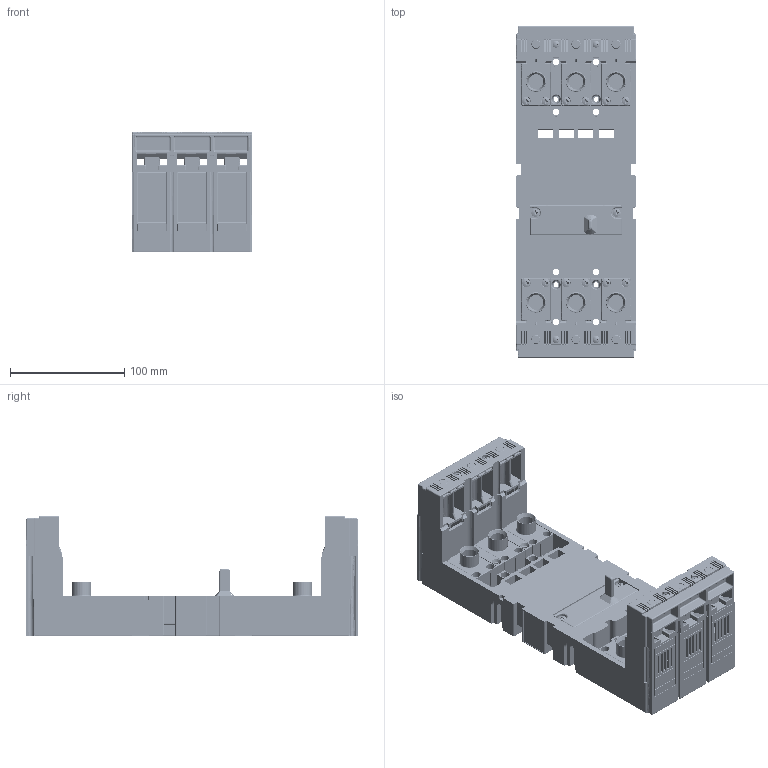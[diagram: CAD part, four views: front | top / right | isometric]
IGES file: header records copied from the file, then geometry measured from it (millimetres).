
Start section: SolidWorks IGES file using analytic representation for surfaces
Global section: file name: U:\14_RD\05_Technical_office\04_Office\Hrdinova\3D modely - IGES\Modeion - BD250\ZO-BD-0250-300.IGS; native system: SolidWorks 2011; preprocessor: SolidWorks 2011; author: adhrja3; date: 170619.085218; units: millimetre
Bounding box: 105 x 290 x 105 mm (x, y, z)
Surface area: 356089.4 mm2 (no closed solid volume)
Topology: 0 solids, 0 shells, 5153 faces, 48591 edges, 48390 vertices
Faces by surface type: bspline 3163, revolution 1990
